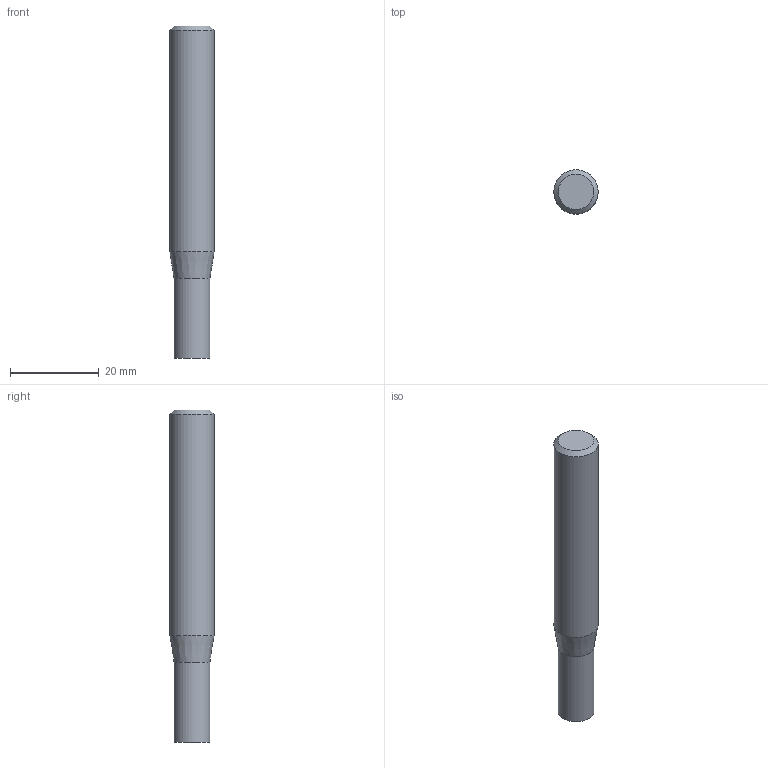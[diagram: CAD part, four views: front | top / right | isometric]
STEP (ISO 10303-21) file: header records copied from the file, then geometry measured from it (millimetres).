
FILE_DESCRIPTION((''),'2;1');
FILE_NAME('C:\Users\nsx150\AppData\Local\Temp\Mastercam 2021\98T1Q6BTT1\TEMP.step','2021-10-21T14:49:34',(''),(''),'STEP Write','Mastercam 2021 ... CNC Software, Inc.','');
FILE_SCHEMA(('AUTOMOTIVE_DESIGN'));
Length unit declared in the file: millimetre
Products named in the file (1): None
Bounding box: 10 x 10 x 75 mm (x, y, z)
Volume: 5305.8 mm3; surface area: 2446.4 mm2
Topology: 2 solids, 2 shells, 8 faces, 10 edges, 6 vertices
Faces by surface type: plane 4, cylinder 2, cone 2
Full cylindrical faces by diameter (mm): 8.1 x1, 10 x1
Entity records: 190 total; most frequent: DIRECTION 32, CARTESIAN_POINT 22, AXIS2_PLACEMENT_3D 16, ORIENTED_EDGE 12, EDGE_LOOP 12, STYLED_ITEM 11, ADVANCED_FACE 8, VERTEX_POINT 6
